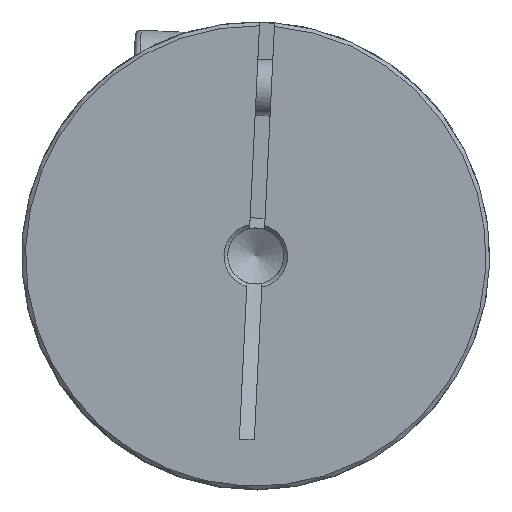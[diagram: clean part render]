
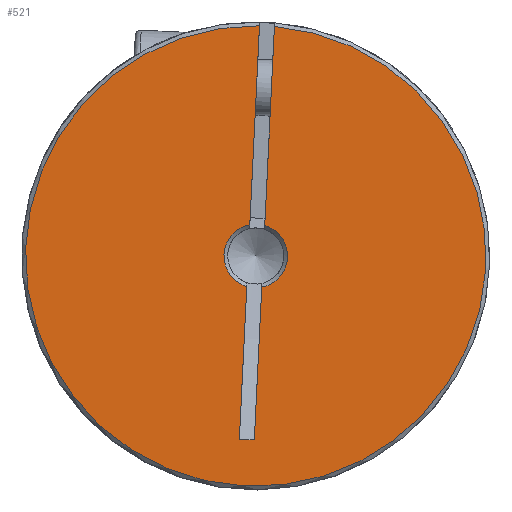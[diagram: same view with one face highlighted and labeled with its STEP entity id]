
A CAD part, left-side view. The second image highlights one B-rep face of the part: STEP entity #521.
In plain terms, the highlighted planar face has unit normal (-1, 0, 0) as drawn and (0, 0, 1) by its records, which use the part's own axes.
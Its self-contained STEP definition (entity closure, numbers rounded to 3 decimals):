
#521 = ADVANCED_FACE( 'NONE', ( #1121 ), #1122, .T. );
#1121 = FACE_OUTER_BOUND( '', #1800, .T. );
#1122 = PLANE( '', #1801 );
#1800 = EDGE_LOOP( '', ( #2810, #2811, #2812, #2813, #2814, #2815, #2816, #2817 ) );
#1801 = AXIS2_PLACEMENT_3D( '', #2818, #2819, #2820 );
#2810 = ORIENTED_EDGE( '', *, *, #3372, .F. );
#2811 = ORIENTED_EDGE( '', *, *, #3376, .T. );
#2812 = ORIENTED_EDGE( '', *, *, #3507, .F. );
#2813 = ORIENTED_EDGE( '', *, *, #3541, .T. );
#2814 = ORIENTED_EDGE( '', *, *, #3442, .T. );
#2815 = ORIENTED_EDGE( '', *, *, #3215, .T. );
#2816 = ORIENTED_EDGE( '', *, *, #3431, .T. );
#2817 = ORIENTED_EDGE( '', *, *, #3451, .F. );
#2818 = CARTESIAN_POINT( '', ( 0., 0., 11.25 ) );
#2819 = DIRECTION( '', ( 0., 0., 1. ) );
#2820 = DIRECTION( '', ( 1., 0., 0. ) );
#3215 = EDGE_CURVE( 'NONE', #3652, #3649, #3653, .F. );
#3372 = EDGE_CURVE( 'NONE', #3898, #3900, #3901, .F. );
#3376 = EDGE_CURVE( 'NONE', #3898, #3904, #3907, .F. );
#3431 = EDGE_CURVE( 'NONE', #3649, #3986, #3987, .T. );
#3442 = EDGE_CURVE( 'NONE', #4002, #3652, #4003, .T. );
#3451 = EDGE_CURVE( 'NONE', #3900, #3986, #4015, .F. );
#3507 = EDGE_CURVE( 'NONE', #4094, #3904, #4095, .T. );
#3541 = EDGE_CURVE( 'NONE', #4094, #4002, #4140, .T. );
#3649 = VERTEX_POINT( 'NONE', #4248 );
#3652 = VERTEX_POINT( 'NONE', #4254 );
#3653 = CIRCLE( '', #4255, 1.7 );
#3898 = VERTEX_POINT( 'NONE', #4582 );
#3900 = VERTEX_POINT( 'NONE', #4587 );
#3901 = LINE( '', #4588, #4589 );
#3904 = VERTEX_POINT( 'NONE', #4592 );
#3907 = CIRCLE( '', #4598, 1.7 );
#3986 = VERTEX_POINT( 'NONE', #4690 );
#3987 = LINE( '', #4691, #4692 );
#4002 = VERTEX_POINT( 'NONE', #4709 );
#4003 = LINE( '', #4710, #4711 );
#4015 = LINE( '', #4730, #4731 );
#4094 = VERTEX_POINT( 'NONE', #4824 );
#4095 = LINE( '', #4825, #4826 );
#4140 = CIRCLE( '', #4926, 12.3 );
#4248 = CARTESIAN_POINT( '', ( -1.652, -0.4, 11.25 ) );
#4254 = CARTESIAN_POINT( '', ( 1.652, -0.4, 11.25 ) );
#4255 = AXIS2_PLACEMENT_3D( '', #5036, #5037, #5038 );
#4582 = CARTESIAN_POINT( '', ( -1.652, 0.4, 11.25 ) );
#4587 = CARTESIAN_POINT( '', ( -9.815, 0.4, 11.25 ) );
#4588 = CARTESIAN_POINT( '', ( 7., 0.4, 11.25 ) );
#4589 = VECTOR( '', #5297, 1000. );
#4592 = CARTESIAN_POINT( '', ( 1.652, 0.4, 11.25 ) );
#4598 = AXIS2_PLACEMENT_3D( '', #5301, #5302, #5303 );
#4690 = CARTESIAN_POINT( '', ( -9.815, -0.4, 11.25 ) );
#4691 = CARTESIAN_POINT( '', ( 0., -0.4, 11.25 ) );
#4692 = VECTOR( '', #5377, 1000. );
#4709 = CARTESIAN_POINT( '', ( 12.293, -0.4, 11.25 ) );
#4710 = CARTESIAN_POINT( '', ( 0., -0.4, 11.25 ) );
#4711 = VECTOR( '', #5392, 1000. );
#4730 = CARTESIAN_POINT( '', ( -9.815, -0.4, 11.25 ) );
#4731 = VECTOR( '', #5400, 1000. );
#4824 = CARTESIAN_POINT( '', ( 12.293, 0.4, 11.25 ) );
#4825 = CARTESIAN_POINT( '', ( 0., 0.4, 11.25 ) );
#4826 = VECTOR( '', #5472, 1000. );
#4926 = AXIS2_PLACEMENT_3D( '', #5508, #5509, #5510 );
#5036 = CARTESIAN_POINT( '', ( 0., 0., 11.25 ) );
#5037 = DIRECTION( '', ( 0., 0., 1. ) );
#5038 = DIRECTION( '', ( 1., 0., 0. ) );
#5297 = DIRECTION( '', ( 1., 0., 0. ) );
#5301 = CARTESIAN_POINT( '', ( 0., 0., 11.25 ) );
#5302 = DIRECTION( '', ( 0., 0., 1. ) );
#5303 = DIRECTION( '', ( 1., 0., 0. ) );
#5377 = DIRECTION( '', ( -1., 0., 0. ) );
#5392 = DIRECTION( '', ( -1., 0., 0. ) );
#5400 = DIRECTION( '', ( 0., 1., 0. ) );
#5472 = DIRECTION( '', ( -1., 0., 0. ) );
#5508 = CARTESIAN_POINT( '', ( 0., 0., 11.25 ) );
#5509 = DIRECTION( '', ( 0., 0., 1. ) );
#5510 = DIRECTION( '', ( 1., 0., 0. ) );
